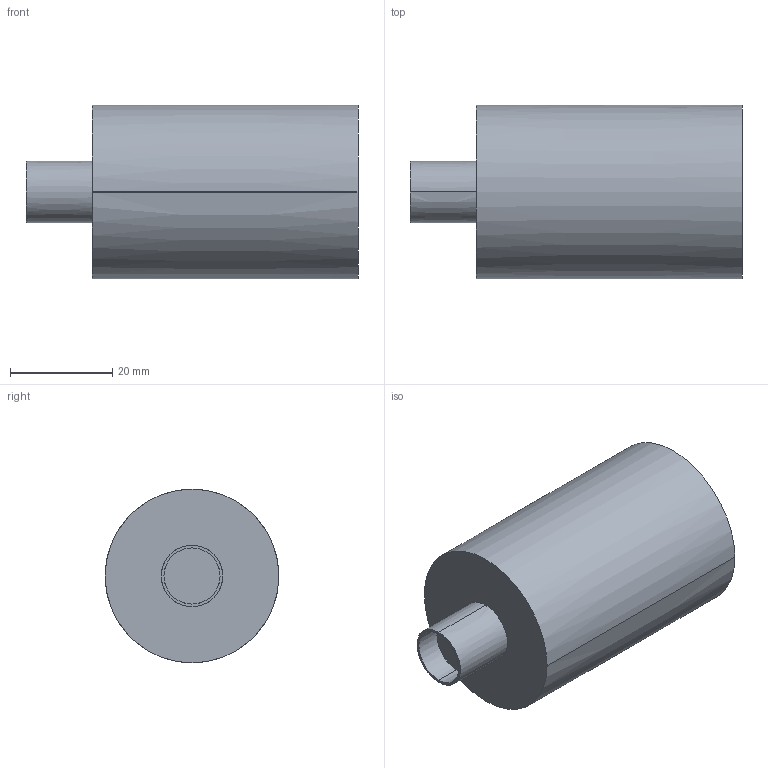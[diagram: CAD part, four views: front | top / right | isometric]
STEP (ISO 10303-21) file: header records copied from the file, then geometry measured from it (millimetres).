
FILE_DESCRIPTION((''),'2;1');
FILE_NAME('875CP_PG4-15_MICROQD_34','2010-10-05T',('Administrator'),(''),'PRO/ENGINEER BY PARAMETRIC TECHNOLOGY CORPORATION, 2006010','PRO/ENGINEER BY PARAMETRIC TECHNOLOGY CORPORATION, 2006010','');
FILE_SCHEMA(('CONFIG_CONTROL_DESIGN'));
Length unit declared in the file: millimetre
Products named in the file (1): 875CP_PG4-15_MICROQD_34
Bounding box: 65 x 34 x 34 mm (x, y, z)
Surface area: 8033 mm2 (no closed solid volume)
Topology: 0 solids, 0 shells, 10 faces, 48 edges, 54 vertices
Faces by surface type: bspline 10
Entity records: 1234 total; most frequent: CARTESIAN_POINT 795, DIRECTION 74, TRIMMED_CURVE 54, VECTOR 36, LINE 36, DEFINITIONAL_REPRESENTATION 36, PCURVE 36, COMPOSITE_CURVE_SEGMENT 36
